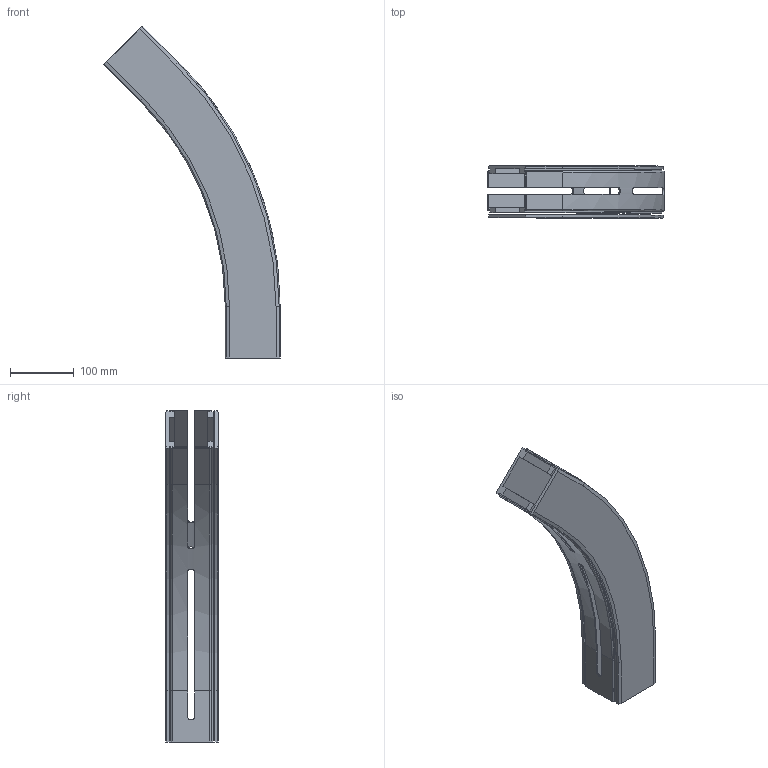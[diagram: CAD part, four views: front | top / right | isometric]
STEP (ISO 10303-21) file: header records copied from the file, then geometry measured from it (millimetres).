
FILE_DESCRIPTION((''),'2;1');
FILE_NAME('C:\Vault Klient\Projekt\Koncept konstruktion\Serie 530 Balk\530-5300.stp','2010-12-01T08:16:48',('Mathias'),(''),'Autodesk Inventor 2011','Autodesk Inventor 2011','');
FILE_SCHEMA(('AUTOMOTIVE_DESIGN { 1 0 10303 214 1 1 1 1 }'));
Length unit declared in the file: millimetre
Products named in the file (1): 530-5300
Bounding box: 276.42 x 82 x 520.53 mm (x, y, z)
Volume: 799586.1 mm3; surface area: 383283.5 mm2
Topology: 2 solids, 2 shells, 163 faces, 458 edges, 300 vertices
Faces by surface type: plane 107, cylinder 30, bspline 18, torus 4, cone 4
Entity records: 5598 total; most frequent: CARTESIAN_POINT 1344, ORIENTED_EDGE 916, DIRECTION 798, EDGE_CURVE 458, VECTOR 338, LINE 338, VERTEX_POINT 300, AXIS2_PLACEMENT_3D 230
